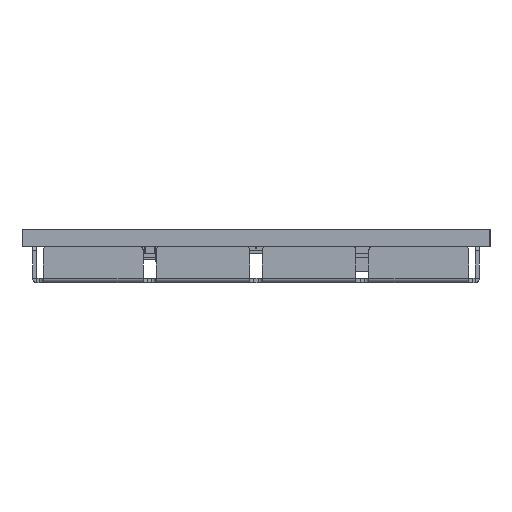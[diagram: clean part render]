
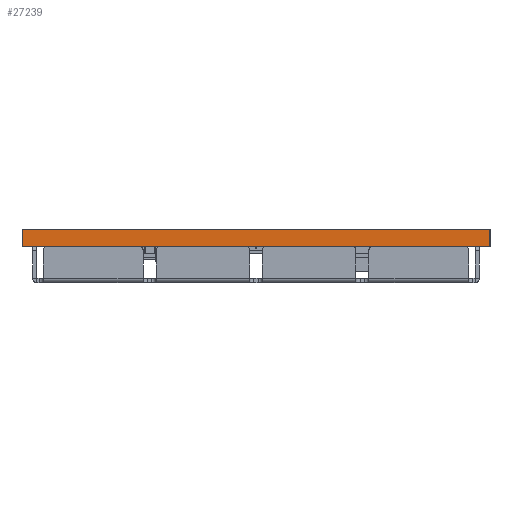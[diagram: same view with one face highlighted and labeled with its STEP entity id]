
A CAD part, left-side view. The second image highlights one B-rep face of the part: STEP entity #27239.
In plain terms, the highlighted planar face has unit normal (-1, 0, 0).
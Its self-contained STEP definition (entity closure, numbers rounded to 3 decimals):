
#437=DIRECTION('',(0.,-1.,0.));
#438=VECTOR('',#437,22.);
#439=CARTESIAN_POINT('',(-11.5,11.,0.));
#440=LINE('',#439,#438);
#1389=DIRECTION('',(0.,0.,1.));
#1390=VECTOR('',#1389,0.8);
#1391=CARTESIAN_POINT('',(-11.5,11.,0.));
#1392=LINE('',#1391,#1390);
#1410=DIRECTION('',(0.,0.,1.));
#1411=VECTOR('',#1410,0.8);
#1412=CARTESIAN_POINT('',(-11.5,-11.,0.));
#1413=LINE('',#1412,#1411);
#1417=DIRECTION('',(0.,-1.,0.));
#1418=VECTOR('',#1417,22.);
#1419=CARTESIAN_POINT('',(-11.5,11.,0.8));
#1420=LINE('',#1419,#1418);
#21645=CARTESIAN_POINT('',(-11.5,11.,0.));
#21646=CARTESIAN_POINT('',(-11.5,-11.,0.));
#21647=VERTEX_POINT('',#21645);
#21648=VERTEX_POINT('',#21646);
#21653=CARTESIAN_POINT('',(-11.5,11.,0.8));
#21654=CARTESIAN_POINT('',(-11.5,-11.,0.8));
#21655=VERTEX_POINT('',#21653);
#21656=VERTEX_POINT('',#21654);
#27225=CARTESIAN_POINT('',(-11.5,11.,0.));
#27226=DIRECTION('',(-1.,0.,0.));
#27227=DIRECTION('',(0.,-1.,0.));
#27228=AXIS2_PLACEMENT_3D('',#27225,#27226,#27227);
#27229=PLANE('',#27228);
#27230=ORIENTED_EDGE('',*,*,#25762,.F.);
#27232=ORIENTED_EDGE('',*,*,#27231,.T.);
#27234=ORIENTED_EDGE('',*,*,#27233,.T.);
#27236=ORIENTED_EDGE('',*,*,#27235,.F.);
#27237=EDGE_LOOP('',(#27230,#27232,#27234,#27236));
#27238=FACE_OUTER_BOUND('',#27237,.F.);
#27239=ADVANCED_FACE('',(#27238),#27229,.T.);
#25762=EDGE_CURVE('',#21647,#21648,#440,.T.);
#27231=EDGE_CURVE('',#21647,#21655,#1392,.T.);
#27233=EDGE_CURVE('',#21655,#21656,#1420,.T.);
#27235=EDGE_CURVE('',#21648,#21656,#1413,.T.);
